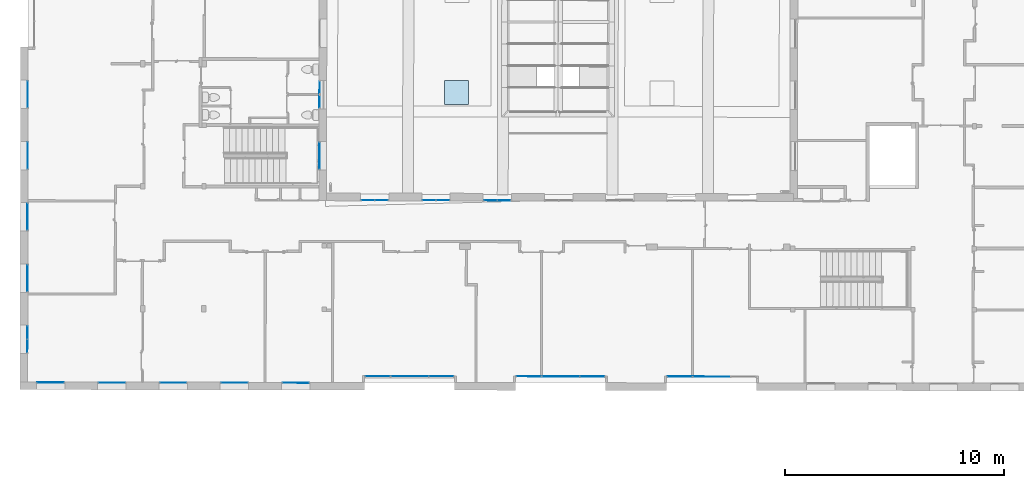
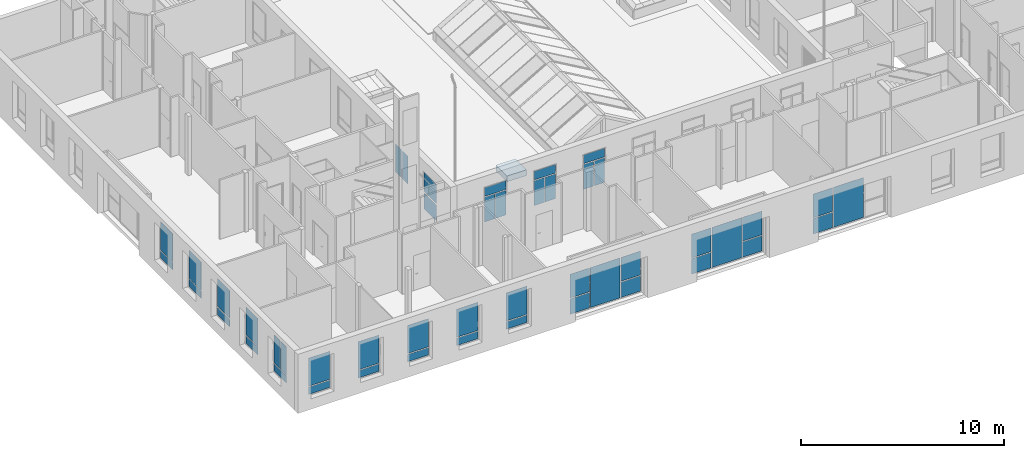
# One storey, part 34 of 101: 47 plates, 1 slab, 20 elements without a shape of their own.
"""IFC2X3 building model written with IfcOpenShell, lengths in metres."""

from ifc_helpers import new_model, entity, si_unit, converted_unit, derived_unit, direction, frame, frame_2d, origin, place, context, subcontext, project, spatial, rectangle, extrude, source, transform, mapped, material, layer, layer_set, type_object, type_shapes, element, aggregate, save


model = new_model("IFC2X3")

# Units and contexts
model_context = context("Model", 3, precision=1e-05, world=origin(), true_north=direction((6.123233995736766e-17, 1.0)))
body_context = subcontext(model_context, "Body", "Model", "MODEL_VIEW")
ifc_project = project(units=[si_unit("LENGTHUNIT", "METRE"), si_unit("AREAUNIT", "SQUARE_METRE"), converted_unit("PLANEANGLEUNIT", "DEGREE", entity("IfcPlaneAngleMeasure", 0.017453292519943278), si_unit("PLANEANGLEUNIT", "RADIAN"), dimensions=[0, 0, 0, 0, 0, 0, 0]), derived_unit("THERMALTRANSMITTANCEUNIT", [(si_unit("MASSUNIT", "GRAM", prefix="KILO"), 1), (si_unit("THERMODYNAMICTEMPERATUREUNIT", "KELVIN"), -1), (si_unit("TIMEUNIT", "SECOND"), -3)])], contexts=[model_context])

# Site, building, storey
site_placement = place(None, frame((1253.6752467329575, 2072.143113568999, 91.49999999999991), z_axis=(0.0, 0.0, 1.0), x_axis=(0.7237211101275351, 0.6900925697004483, 0.0)))
site = spatial("IfcSite", under=ifc_project, at=site_placement, Name="Surface", CompositionType="ELEMENT")
building_placement = place(site_placement, origin())
building = spatial("IfcBuilding", under=site, at=building_placement, CompositionType="ELEMENT")
storey_placement = place(building_placement, origin())
storey = spatial("IfcBuildingStorey", under=building, at=storey_placement, Name="0- Rdc", CompositionType="ELEMENT", Elevation=-5.764692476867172e-13)

# Curtain wall, plate
curtain_wall_type_1 = type_object("IfcCurtainWallType", Name="Mur-rideau:Menuiserie Ext 1F+1OB VERTIC", PredefinedType="NOTDEFINED")
curtain_wall_1_placement = place(storey_placement, origin())
curtain_wall_1 = element("IfcCurtainWall", 1, at=curtain_wall_1_placement, inside=storey, type_object=curtain_wall_type_1, Name="Mur-rideau:Menuiserie Ext 1F+1OB VERTIC", ObjectType="Mur-rideau:Menuiserie Ext 1F+1OB VERTIC")
ifc_material_1 = material(Name="Verre")
ifc_layer_1 = layer(ifc_material_1, 0.01)
ifc_layer_set_1 = layer_set([ifc_layer_1], Name="Panneau système:Vitré")
plate_type_1 = type_object("IfcPlateType", Name="Panneau système:Vitré", PredefinedType="CURTAIN_PANEL", material=ifc_layer_set_1)
shared_shape_1 = source(origin(), body_context, "Body", "SweptSolid", [
    extrude(rectangle(XDim=0.01, YDim=1.199695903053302, at=frame_2d((0.0, -4.163336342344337e-15), x_axis=(1.0, 0.0))), frame((0.0, 0.0, 0.0), z_axis=(0.0, 0.0, 1.0), x_axis=(0.0, 1.0, 0.0)), (0.0, 0.0, 1.0), 0.44499999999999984),
])
type_shapes(plate_type_1, [shared_shape_1])
plate_1_placement = place(curtain_wall_1_placement, frame((153.07029230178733, -4.2050887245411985, 0.6699999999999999), z_axis=(0.0, 0.0, 1.0), x_axis=(-0.7228702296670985, 0.6909838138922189, 0.0)))
plate_1 = element("IfcPlate", 2, at=plate_1_placement, type_object=plate_type_1, material=ifc_material_1, Name="Panneau système:Vitré", ObjectType="Panneau système:Vitré", context=body_context, shape_type="MappedRepresentation", body=[
    mapped(shared_shape_1, transform((0.0, 0.0, 0.0), scale=1.0)),
])

curtain_wall_2_placement = place(storey_placement, origin())
curtain_wall_2 = element("IfcCurtainWall", 3, at=curtain_wall_2_placement, inside=storey, type_object=curtain_wall_type_1, Name="Mur-rideau:Menuiserie Ext 1F+1OB VERTIC", ObjectType="Mur-rideau:Menuiserie Ext 1F+1OB VERTIC")
plate_2_placement = place(curtain_wall_2_placement, frame((151.04625565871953, -2.2703340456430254, 0.6699999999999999), z_axis=(0.0, 0.0, 1.0), x_axis=(-0.7228702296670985, 0.6909838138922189, 0.0)))
plate_2 = element("IfcPlate", 4, at=plate_2_placement, type_object=plate_type_1, material=ifc_material_1, Name="Panneau système:Vitré", ObjectType="Panneau système:Vitré", context=body_context, shape_type="MappedRepresentation", body=[
    mapped(shared_shape_1, transform((0.0, 0.0, 0.0), scale=1.0)),
])

curtain_wall_3_placement = place(storey_placement, origin())
curtain_wall_3 = element("IfcCurtainWall", 5, at=curtain_wall_3_placement, inside=storey, type_object=curtain_wall_type_1, Name="Mur-rideau:Menuiserie Ext 1F+1OB VERTIC", ObjectType="Mur-rideau:Menuiserie Ext 1F+1OB VERTIC")
plate_3_placement = place(curtain_wall_3_placement, frame((149.02221901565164, -0.33557936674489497, 0.6699999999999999), z_axis=(0.0, 0.0, 1.0), x_axis=(-0.7228702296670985, 0.6909838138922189, 0.0)))
plate_3 = element("IfcPlate", 6, at=plate_3_placement, type_object=plate_type_1, material=ifc_material_1, Name="Panneau système:Vitré", ObjectType="Panneau système:Vitré", context=body_context, shape_type="MappedRepresentation", body=[
    mapped(shared_shape_1, transform((0.0, 0.0, 0.0), scale=1.0)),
])

curtain_wall_4_placement = place(storey_placement, origin())
curtain_wall_4 = element("IfcCurtainWall", 7, at=curtain_wall_4_placement, inside=storey, type_object=curtain_wall_type_1, Name="Mur-rideau:Menuiserie Ext 1F+1OB VERTIC", ObjectType="Mur-rideau:Menuiserie Ext 1F+1OB VERTIC")
plate_4_placement = place(curtain_wall_4_placement, frame((146.99787021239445, 1.5994737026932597, 0.6699999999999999), z_axis=(0.0, 0.0, 1.0), x_axis=(-0.7228702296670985, 0.6909838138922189, 0.0)))
plate_4 = element("IfcPlate", 8, at=plate_4_placement, type_object=plate_type_1, material=ifc_material_1, Name="Panneau système:Vitré", ObjectType="Panneau système:Vitré", context=body_context, shape_type="MappedRepresentation", body=[
    mapped(shared_shape_1, transform((0.0, 0.0, 0.0), scale=1.0)),
])

curtain_wall_5_placement = place(storey_placement, origin())
curtain_wall_5 = element("IfcCurtainWall", 9, at=curtain_wall_5_placement, inside=storey, type_object=curtain_wall_type_1, Name="Mur-rideau:Menuiserie Ext 1F+1OB VERTIC", ObjectType="Mur-rideau:Menuiserie Ext 1F+1OB VERTIC")
plate_5_placement = place(curtain_wall_5_placement, frame((144.97414572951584, 3.5339299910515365, 0.6699999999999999), z_axis=(0.0, 0.0, 1.0), x_axis=(-0.7228702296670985, 0.6909838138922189, 0.0)))
plate_5 = element("IfcPlate", 10, at=plate_5_placement, type_object=plate_type_1, material=ifc_material_1, Name="Panneau système:Vitré", ObjectType="Panneau système:Vitré", context=body_context, shape_type="MappedRepresentation", body=[
    mapped(shared_shape_1, transform((0.0, 0.0, 0.0), scale=1.0)),
])

curtain_wall_6_placement = place(storey_placement, origin())
curtain_wall_6 = element("IfcCurtainWall", 11, at=curtain_wall_6_placement, inside=storey, type_object=curtain_wall_type_1, Name="Mur-rideau:Menuiserie Ext 1F+1OB VERTIC", ObjectType="Mur-rideau:Menuiserie Ext 1F+1OB VERTIC")
plate_6_placement = place(curtain_wall_6_placement, frame((147.5023672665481, 7.717569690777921, 0.6699999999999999), z_axis=(0.0, 0.0, 1.0), x_axis=(0.6911544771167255, 0.7227070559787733, 0.0)))
plate_6 = element("IfcPlate", 12, at=plate_6_placement, type_object=plate_type_1, material=ifc_material_1, Name="Panneau système:Vitré", ObjectType="Panneau système:Vitré", context=body_context, shape_type="MappedRepresentation", body=[
    mapped(shared_shape_1, transform((0.0, 0.0, 0.0), scale=1.0)),
])

curtain_wall_7_placement = place(storey_placement, origin())
curtain_wall_7 = element("IfcCurtainWall", 13, at=curtain_wall_7_placement, inside=storey, type_object=curtain_wall_type_1, Name="Mur-rideau:Menuiserie Ext 1F+1OB VERTIC", ObjectType="Mur-rideau:Menuiserie Ext 1F+1OB VERTIC")
plate_7_placement = place(curtain_wall_7_placement, frame((149.43712194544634, 9.741606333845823, 0.6699999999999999), z_axis=(0.0, 0.0, 1.0), x_axis=(0.6911544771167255, 0.7227070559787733, 0.0)))
plate_7 = element("IfcPlate", 14, at=plate_7_placement, type_object=plate_type_1, material=ifc_material_1, Name="Panneau système:Vitré", ObjectType="Panneau système:Vitré", context=body_context, shape_type="MappedRepresentation", body=[
    mapped(shared_shape_1, transform((0.0, 0.0, 0.0), scale=1.0)),
])

curtain_wall_8_placement = place(storey_placement, origin())
curtain_wall_8 = element("IfcCurtainWall", 15, at=curtain_wall_8_placement, inside=storey, type_object=curtain_wall_type_1, Name="Mur-rideau:Menuiserie Ext 1F+1OB VERTIC", ObjectType="Mur-rideau:Menuiserie Ext 1F+1OB VERTIC")
plate_8_placement = place(curtain_wall_8_placement, frame((151.37187662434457, 11.765642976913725, 0.6699999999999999), z_axis=(0.0, 0.0, 1.0), x_axis=(0.6911544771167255, 0.7227070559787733, 0.0)))
plate_8 = element("IfcPlate", 16, at=plate_8_placement, type_object=plate_type_1, material=ifc_material_1, Name="Panneau système:Vitré", ObjectType="Panneau système:Vitré", context=body_context, shape_type="MappedRepresentation", body=[
    mapped(shared_shape_1, transform((0.0, 0.0, 0.0), scale=1.0)),
])

curtain_wall_9_placement = place(storey_placement, origin())
curtain_wall_9 = element("IfcCurtainWall", 17, at=curtain_wall_9_placement, inside=storey, type_object=curtain_wall_type_1, Name="Mur-rideau:Menuiserie Ext 1F+1OB VERTIC", ObjectType="Mur-rideau:Menuiserie Ext 1F+1OB VERTIC")
plate_9_placement = place(curtain_wall_9_placement, frame((153.3066313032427, 13.789679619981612, 0.6699999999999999), z_axis=(0.0, 0.0, 1.0), x_axis=(0.6911544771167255, 0.7227070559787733, 0.0)))
plate_9 = element("IfcPlate", 18, at=plate_9_placement, type_object=plate_type_1, material=ifc_material_1, Name="Panneau système:Vitré", ObjectType="Panneau système:Vitré", context=body_context, shape_type="MappedRepresentation", body=[
    mapped(shared_shape_1, transform((0.0, 0.0, 0.0), scale=1.0)),
])

# Plate
plate_type_2 = type_object("IfcPlateType", Name="Panneau système:Vitré", PredefinedType="CURTAIN_PANEL", material=ifc_layer_set_1)
shared_shape_2 = source(origin(), body_context, "Body", "SweptSolid", [
    extrude(rectangle(XDim=0.01, YDim=1.199695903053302, at=frame_2d((0.0, -4.163336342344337e-15), x_axis=(1.0, 0.0))), frame((0.0, 0.0, 0.0), z_axis=(0.0, 0.0, 1.0), x_axis=(0.0, 1.0, 0.0)), (0.0, 0.0, 1.0), 1.6849999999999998),
])
type_shapes(plate_type_2, [shared_shape_2])
plate_10_placement = place(curtain_wall_1_placement, frame((153.07029230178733, -4.2050887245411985, 1.1649999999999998), z_axis=(0.0, 0.0, 1.0), x_axis=(-0.7228702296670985, 0.6909838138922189, 0.0)))
plate_10 = element("IfcPlate", 19, at=plate_10_placement, type_object=plate_type_2, material=ifc_material_1, Name="Panneau système:Vitré", ObjectType="Panneau système:Vitré", context=body_context, shape_type="MappedRepresentation", body=[
    mapped(shared_shape_2, transform((0.0, 0.0, 0.0), scale=1.0)),
])

aggregate(curtain_wall_1, [plate_1, plate_10])

plate_11_placement = place(curtain_wall_2_placement, frame((151.04625565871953, -2.2703340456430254, 1.1649999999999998), z_axis=(0.0, 0.0, 1.0), x_axis=(-0.7228702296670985, 0.6909838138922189, 0.0)))
plate_11 = element("IfcPlate", 20, at=plate_11_placement, type_object=plate_type_2, material=ifc_material_1, Name="Panneau système:Vitré", ObjectType="Panneau système:Vitré", context=body_context, shape_type="MappedRepresentation", body=[
    mapped(shared_shape_2, transform((0.0, 0.0, 0.0), scale=1.0)),
])

aggregate(curtain_wall_2, [plate_2, plate_11])

plate_12_placement = place(curtain_wall_3_placement, frame((149.02221901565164, -0.33557936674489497, 1.1649999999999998), z_axis=(0.0, 0.0, 1.0), x_axis=(-0.7228702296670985, 0.6909838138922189, 0.0)))
plate_12 = element("IfcPlate", 21, at=plate_12_placement, type_object=plate_type_2, material=ifc_material_1, Name="Panneau système:Vitré", ObjectType="Panneau système:Vitré", context=body_context, shape_type="MappedRepresentation", body=[
    mapped(shared_shape_2, transform((0.0, 0.0, 0.0), scale=1.0)),
])

aggregate(curtain_wall_3, [plate_3, plate_12])

plate_13_placement = place(curtain_wall_4_placement, frame((146.99787021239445, 1.5994737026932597, 1.1649999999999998), z_axis=(0.0, 0.0, 1.0), x_axis=(-0.7228702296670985, 0.6909838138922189, 0.0)))
plate_13 = element("IfcPlate", 22, at=plate_13_placement, type_object=plate_type_2, material=ifc_material_1, Name="Panneau système:Vitré", ObjectType="Panneau système:Vitré", context=body_context, shape_type="MappedRepresentation", body=[
    mapped(shared_shape_2, transform((0.0, 0.0, 0.0), scale=1.0)),
])

aggregate(curtain_wall_4, [plate_4, plate_13])

plate_14_placement = place(curtain_wall_5_placement, frame((144.97414572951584, 3.5339299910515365, 1.1649999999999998), z_axis=(0.0, 0.0, 1.0), x_axis=(-0.7228702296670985, 0.6909838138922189, 0.0)))
plate_14 = element("IfcPlate", 23, at=plate_14_placement, type_object=plate_type_2, material=ifc_material_1, Name="Panneau système:Vitré", ObjectType="Panneau système:Vitré", context=body_context, shape_type="MappedRepresentation", body=[
    mapped(shared_shape_2, transform((0.0, 0.0, 0.0), scale=1.0)),
])

aggregate(curtain_wall_5, [plate_5, plate_14])

plate_15_placement = place(curtain_wall_6_placement, frame((147.5023672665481, 7.717569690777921, 1.1649999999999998), z_axis=(0.0, 0.0, 1.0), x_axis=(0.6911544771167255, 0.7227070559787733, 0.0)))
plate_15 = element("IfcPlate", 24, at=plate_15_placement, type_object=plate_type_2, material=ifc_material_1, Name="Panneau système:Vitré", ObjectType="Panneau système:Vitré", context=body_context, shape_type="MappedRepresentation", body=[
    mapped(shared_shape_2, transform((0.0, 0.0, 0.0), scale=1.0)),
])

aggregate(curtain_wall_6, [plate_6, plate_15])

plate_16_placement = place(curtain_wall_7_placement, frame((149.43712194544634, 9.741606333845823, 1.1649999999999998), z_axis=(0.0, 0.0, 1.0), x_axis=(0.6911544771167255, 0.7227070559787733, 0.0)))
plate_16 = element("IfcPlate", 25, at=plate_16_placement, type_object=plate_type_2, material=ifc_material_1, Name="Panneau système:Vitré", ObjectType="Panneau système:Vitré", context=body_context, shape_type="MappedRepresentation", body=[
    mapped(shared_shape_2, transform((0.0, 0.0, 0.0), scale=1.0)),
])

aggregate(curtain_wall_7, [plate_7, plate_16])

plate_17_placement = place(curtain_wall_8_placement, frame((151.37187662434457, 11.765642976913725, 1.1649999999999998), z_axis=(0.0, 0.0, 1.0), x_axis=(0.6911544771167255, 0.7227070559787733, 0.0)))
plate_17 = element("IfcPlate", 26, at=plate_17_placement, type_object=plate_type_2, material=ifc_material_1, Name="Panneau système:Vitré", ObjectType="Panneau système:Vitré", context=body_context, shape_type="MappedRepresentation", body=[
    mapped(shared_shape_2, transform((0.0, 0.0, 0.0), scale=1.0)),
])

aggregate(curtain_wall_8, [plate_8, plate_17])

plate_18_placement = place(curtain_wall_9_placement, frame((153.3066313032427, 13.789679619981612, 1.1649999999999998), z_axis=(0.0, 0.0, 1.0), x_axis=(0.6911544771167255, 0.7227070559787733, 0.0)))
plate_18 = element("IfcPlate", 27, at=plate_18_placement, type_object=plate_type_2, material=ifc_material_1, Name="Panneau système:Vitré", ObjectType="Panneau système:Vitré", context=body_context, shape_type="MappedRepresentation", body=[
    mapped(shared_shape_2, transform((0.0, 0.0, 0.0), scale=1.0)),
])

aggregate(curtain_wall_9, [plate_9, plate_18])

# Curtain wall, plates
curtain_wall_10_placement = place(storey_placement, origin())
curtain_wall_10 = element("IfcCurtainWall", 28, at=curtain_wall_10_placement, inside=storey, type_object=curtain_wall_type_1, Name="Mur-rideau:Menuiserie Ext 1F+1OB VERTIC", ObjectType="Mur-rideau:Menuiserie Ext 1F+1OB VERTIC")
plate_type_3 = type_object("IfcPlateType", Name="Panneau système:Vitré", PredefinedType="CURTAIN_PANEL", material=ifc_layer_set_1)
shared_shape_3 = source(origin(), body_context, "Body", "SweptSolid", [
    extrude(rectangle(XDim=0.44499999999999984, YDim=1.1996959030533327, at=frame_2d((0.0, -5.773159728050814e-15), x_axis=(1.0, 0.0))), frame((0.0, -0.005000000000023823, 0.22249999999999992), z_axis=(0.0, 1.0, 0.0), x_axis=(0.0, 0.0, 1.0)), (0.0, 0.0, 1.0), 0.01),
])
type_shapes(plate_type_3, [shared_shape_3])
plate_19_placement = place(curtain_wall_10_placement, frame((145.57106750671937, 5.697147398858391, 0.6699999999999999), z_axis=(0.0, 0.0, 1.0), x_axis=(0.6911544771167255, 0.7227070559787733, 0.0)))
plate_19 = element("IfcPlate", 29, at=plate_19_placement, type_object=plate_type_3, material=ifc_material_1, Name="Panneau système:Vitré", ObjectType="Panneau système:Vitré", context=body_context, shape_type="MappedRepresentation", body=[
    mapped(shared_shape_3, transform((0.0, 0.0, 0.0), scale=1.0)),
])
plate_type_4 = type_object("IfcPlateType", Name="Panneau système:Vitré", PredefinedType="CURTAIN_PANEL", material=ifc_layer_set_1)
shared_shape_4 = source(origin(), body_context, "Body", "SweptSolid", [
    extrude(rectangle(XDim=0.01, YDim=0.5748479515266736, at=frame_2d((0.0, 8.326672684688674e-16), x_axis=(1.0, 0.0))), frame((0.0, 0.0, 0.0), z_axis=(0.0, 0.0, 1.0), x_axis=(0.0, 1.0, 0.0)), (0.0, 0.0, 1.0), 1.6850000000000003),
])
type_shapes(plate_type_4, [shared_shape_4])
plate_20_placement = place(curtain_wall_10_placement, frame((145.35513427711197, 5.471356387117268, 1.1649999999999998), z_axis=(0.0, 0.0, 1.0), x_axis=(0.6911544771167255, 0.7227070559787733, 0.0)))
plate_20 = element("IfcPlate", 30, at=plate_20_placement, type_object=plate_type_4, material=ifc_material_1, Name="Panneau système:Vitré", ObjectType="Panneau système:Vitré", context=body_context, shape_type="MappedRepresentation", body=[
    mapped(shared_shape_4, transform((0.0, 0.0, 0.0), scale=1.0)),
])
plate_21_placement = place(curtain_wall_10_placement, frame((145.7870007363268, 5.922938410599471, 1.1649999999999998), z_axis=(0.0, 0.0, 1.0), x_axis=(0.6911544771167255, 0.7227070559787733, 0.0)))
plate_21 = element("IfcPlate", 31, at=plate_21_placement, type_object=plate_type_4, material=ifc_material_1, Name="Panneau système:Vitré", ObjectType="Panneau système:Vitré", context=body_context, shape_type="MappedRepresentation", body=[
    mapped(shared_shape_4, transform((0.0, 0.0, 0.0), scale=1.0)),
])
aggregate(curtain_wall_10, [plate_19, plate_20, plate_21])

# Curtain wall, plate
curtain_wall_11_placement = place(storey_placement, origin())
curtain_wall_11 = element("IfcCurtainWall", 32, at=curtain_wall_11_placement, inside=storey, type_object=curtain_wall_type_1, Name="Mur-rideau:Menuiserie Ext 1F+1OB VERTIC", ObjectType="Mur-rideau:Menuiserie Ext 1F+1OB VERTIC")
ifc_material_2 = material(Name="OMD-Verre opal")
ifc_layer_2 = layer(ifc_material_1, 0.01)
ifc_layer_set_2 = layer_set([ifc_layer_2], Name="Panneau système:Vitré opal")
plate_type_5 = type_object("IfcPlateType", Name="Panneau système:Vitré opal", PredefinedType="CURTAIN_PANEL", material=ifc_layer_set_2)
shared_shape_5 = source(origin(), body_context, "Body", "SweptSolid", [
    extrude(rectangle(XDim=0.01, YDim=0.5496959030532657, at=frame_2d((0.0, 3.608224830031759e-16), x_axis=(1.0, 0.0))), frame((0.0, 0.0, 0.0), z_axis=(0.0, 0.0, 1.0), x_axis=(0.0, 1.0, 0.0)), (0.0, 0.0, 1.0), 1.6849999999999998),
])
type_shapes(plate_type_5, [shared_shape_5])
plate_22_placement = place(curtain_wall_11_placement, frame((162.72651495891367, 4.341201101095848, 1.1649999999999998), z_axis=(0.0, 0.0, 1.0), x_axis=(0.6909838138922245, 0.722870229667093, 0.0)))
plate_22 = element("IfcPlate", 33, at=plate_22_placement, type_object=plate_type_5, material=ifc_material_2, Name="Panneau système:Vitré opal", ObjectType="Panneau système:Vitré opal", context=body_context, shape_type="MappedRepresentation", body=[
    mapped(shared_shape_5, transform((0.0, 0.0, 0.0), scale=1.0)),
])
aggregate(curtain_wall_11, [plate_22])

# Curtain wall, plates
curtain_wall_12_placement = place(storey_placement, origin())
curtain_wall_12 = element("IfcCurtainWall", 34, at=curtain_wall_12_placement, inside=storey, type_object=curtain_wall_type_1, Name="Mur-rideau:Menuiserie Ext 1F+1OB VERTIC", ObjectType="Mur-rideau:Menuiserie Ext 1F+1OB VERTIC")
plate_type_6 = type_object("IfcPlateType", Name="Panneau système:Vitré", PredefinedType="CURTAIN_PANEL", material=ifc_layer_set_1)
shared_shape_6 = source(origin(), body_context, "Body", "SweptSolid", [
    extrude(rectangle(XDim=0.01, YDim=1.1996959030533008, at=frame_2d((0.0, 2.4424906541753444e-15), x_axis=(1.0, 0.0))), frame((0.0, 0.0, 0.0), z_axis=(0.0, 0.0, 1.0), x_axis=(0.0, 1.0, 0.0)), (0.0, 0.0, 1.0), 0.9399999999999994),
])
type_shapes(plate_type_6, [shared_shape_6])
plate_23_placement = place(curtain_wall_12_placement, frame((161.0163300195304, 2.552097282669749, 0.6699999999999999), z_axis=(0.0, 0.0, 1.0), x_axis=(0.6909838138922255, 0.722870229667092, 0.0)))
plate_23 = element("IfcPlate", 35, at=plate_23_placement, type_object=plate_type_6, material=ifc_material_1, Name="Panneau système:Vitré", ObjectType="Panneau système:Vitré", context=body_context, shape_type="MappedRepresentation", body=[
    mapped(shared_shape_6, transform((0.0, 0.0, 0.0), scale=1.0)),
])
plate_type_7 = type_object("IfcPlateType", Name="Panneau système:Vitré", PredefinedType="CURTAIN_PANEL", material=ifc_layer_set_1)
shared_shape_7 = source(origin(), body_context, "Body", "SweptSolid", [
    extrude(rectangle(XDim=0.01, YDim=1.1996959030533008, at=frame_2d((0.0, 2.4424906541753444e-15), x_axis=(1.0, 0.0))), frame((0.0, 0.0, 0.0), z_axis=(0.0, 0.0, 1.0), x_axis=(0.0, 1.0, 0.0)), (0.0, 0.0, 1.0), 1.1400000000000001),
])
type_shapes(plate_type_7, [shared_shape_7])
plate_24_placement = place(curtain_wall_12_placement, frame((161.0163300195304, 2.552097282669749, 1.7099999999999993), z_axis=(0.0, 0.0, 1.0), x_axis=(0.6909838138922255, 0.722870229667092, 0.0)))
plate_24 = element("IfcPlate", 36, at=plate_24_placement, type_object=plate_type_7, material=ifc_material_1, Name="Panneau système:Vitré", ObjectType="Panneau système:Vitré", context=body_context, shape_type="MappedRepresentation", body=[
    mapped(shared_shape_7, transform((0.0, 0.0, 0.0), scale=1.0)),
])
aggregate(curtain_wall_12, [plate_23, plate_24])

curtain_wall_type_2 = type_object("IfcCurtainWallType", Name="Mur-rideau:Menuiserie Ext 2OF+1F VERTIC", PredefinedType="NOTDEFINED")
curtain_wall_13_placement = place(storey_placement, origin())
curtain_wall_13 = element("IfcCurtainWall", 37, at=curtain_wall_13_placement, inside=storey, type_object=curtain_wall_type_2, Name="Mur-rideau:Menuiserie Ext 2OF+1F VERTIC", ObjectType="Mur-rideau:Menuiserie Ext 2OF+1F VERTIC")
plate_type_8 = type_object("IfcPlateType", Name="Panneau système:Vitré", PredefinedType="CURTAIN_PANEL", material=ifc_layer_set_1)
shared_shape_8 = source(origin(), body_context, "Body", "SweptSolid", [
    extrude(rectangle(XDim=0.01, YDim=0.5748479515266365, at=frame_2d((0.0, 1.4988010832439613e-15), x_axis=(1.0, 0.0))), frame((0.0, 0.0, 0.0), z_axis=(0.0, 0.0, 1.0), x_axis=(0.0, 1.0, 0.0)), (0.0, 0.0, 1.0), 1.4833333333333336),
])
type_shapes(plate_type_8, [shared_shape_8])
plate_25_placement = place(curtain_wall_13_placement, frame((161.66565428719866, -0.8701277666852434, 0.7916666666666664), z_axis=(0.0, 0.0, 1.0), x_axis=(-0.7228702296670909, 0.6909838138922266, 0.0)))
plate_25 = element("IfcPlate", 38, at=plate_25_placement, type_object=plate_type_8, material=ifc_material_1, Name="Panneau système:Vitré", ObjectType="Panneau système:Vitré", context=body_context, shape_type="MappedRepresentation", body=[
    mapped(shared_shape_8, transform((0.0, 0.0, 0.0), scale=1.0)),
])
plate_26_placement = place(curtain_wall_13_placement, frame((161.21397030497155, -0.438367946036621, 0.7916666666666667), z_axis=(0.0, 0.0, 1.0), x_axis=(-0.7228702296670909, 0.6909838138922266, 0.0)))
plate_26 = element("IfcPlate", 39, at=plate_26_placement, type_object=plate_type_8, material=ifc_material_1, Name="Panneau système:Vitré", ObjectType="Panneau système:Vitré", context=body_context, shape_type="MappedRepresentation", body=[
    mapped(shared_shape_8, transform((0.0, 0.0, 0.0), scale=1.0)),
])

curtain_wall_14_placement = place(storey_placement, origin())
curtain_wall_14 = element("IfcCurtainWall", 40, at=curtain_wall_14_placement, inside=storey, type_object=curtain_wall_type_2, Name="Mur-rideau:Menuiserie Ext 2OF+1F VERTIC", ObjectType="Mur-rideau:Menuiserie Ext 2OF+1F VERTIC")
plate_27_placement = place(curtain_wall_14_placement, frame((163.6922186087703, -2.807298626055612, 0.7916666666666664), z_axis=(0.0, 0.0, 1.0), x_axis=(-0.7228702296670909, 0.6909838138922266, 0.0)))
plate_27 = element("IfcPlate", 41, at=plate_27_placement, type_object=plate_type_8, material=ifc_material_1, Name="Panneau système:Vitré", ObjectType="Panneau système:Vitré", context=body_context, shape_type="MappedRepresentation", body=[
    mapped(shared_shape_8, transform((0.0, 0.0, 0.0), scale=1.0)),
])
plate_28_placement = place(curtain_wall_14_placement, frame((163.2405346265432, -2.3755388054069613, 0.7916666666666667), z_axis=(0.0, 0.0, 1.0), x_axis=(-0.7228702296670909, 0.6909838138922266, 0.0)))
plate_28 = element("IfcPlate", 42, at=plate_28_placement, type_object=plate_type_8, material=ifc_material_1, Name="Panneau système:Vitré", ObjectType="Panneau système:Vitré", context=body_context, shape_type="MappedRepresentation", body=[
    mapped(shared_shape_8, transform((0.0, 0.0, 0.0), scale=1.0)),
])

curtain_wall_15_placement = place(storey_placement, origin())
curtain_wall_15 = element("IfcCurtainWall", 43, at=curtain_wall_15_placement, inside=storey, type_object=curtain_wall_type_2, Name="Mur-rideau:Menuiserie Ext 2OF+1F VERTIC", ObjectType="Mur-rideau:Menuiserie Ext 2OF+1F VERTIC")
plate_29_placement = place(curtain_wall_15_placement, frame((165.7162552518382, -4.742053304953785, 0.7916666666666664), z_axis=(0.0, 0.0, 1.0), x_axis=(-0.7228702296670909, 0.6909838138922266, 0.0)))
plate_29 = element("IfcPlate", 44, at=plate_29_placement, type_object=plate_type_8, material=ifc_material_1, Name="Panneau système:Vitré", ObjectType="Panneau système:Vitré", context=body_context, shape_type="MappedRepresentation", body=[
    mapped(shared_shape_8, transform((0.0, 0.0, 0.0), scale=1.0)),
])
plate_30_placement = place(curtain_wall_15_placement, frame((165.26457126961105, -4.310293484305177, 0.7916666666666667), z_axis=(0.0, 0.0, 1.0), x_axis=(-0.7228702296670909, 0.6909838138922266, 0.0)))
plate_30 = element("IfcPlate", 45, at=plate_30_placement, type_object=plate_type_8, material=ifc_material_1, Name="Panneau système:Vitré", ObjectType="Panneau système:Vitré", context=body_context, shape_type="MappedRepresentation", body=[
    mapped(shared_shape_8, transform((0.0, 0.0, 0.0), scale=1.0)),
])

# Plate
plate_type_9 = type_object("IfcPlateType", Name="Panneau système:Vitré", PredefinedType="CURTAIN_PANEL", material=ifc_layer_set_1)
shared_shape_9 = source(origin(), body_context, "Body", "SweptSolid", [
    extrude(rectangle(XDim=0.5249999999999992, YDim=1.1996959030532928, at=frame_2d((-2.7755575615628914e-17, 5.551115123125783e-17), x_axis=(1.0, 0.0))), frame((0.0, -0.005000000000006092, 0.2624999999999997), z_axis=(0.0, 1.0, 0.0), x_axis=(0.0, 0.0, 1.0)), (0.0, 0.0, 1.0), 0.01),
])
type_shapes(plate_type_9, [shared_shape_9])
plate_31_placement = place(curtain_wall_13_placement, frame((161.4398122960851, -0.6542478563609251, 2.325), z_axis=(0.0, 0.0, 1.0), x_axis=(-0.7228702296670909, 0.6909838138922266, 0.0)))
plate_31 = element("IfcPlate", 46, at=plate_31_placement, type_object=plate_type_9, material=ifc_material_1, Name="Panneau système:Vitré", ObjectType="Panneau système:Vitré", context=body_context, shape_type="MappedRepresentation", body=[
    mapped(shared_shape_9, transform((0.0, 0.0, 0.0), scale=1.0)),
])

aggregate(curtain_wall_13, [plate_25, plate_26, plate_31])

plate_32_placement = place(curtain_wall_14_placement, frame((163.46637661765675, -2.5914187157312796, 2.325), z_axis=(0.0, 0.0, 1.0), x_axis=(-0.7228702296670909, 0.6909838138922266, 0.0)))
plate_32 = element("IfcPlate", 47, at=plate_32_placement, type_object=plate_type_9, material=ifc_material_1, Name="Panneau système:Vitré", ObjectType="Panneau système:Vitré", context=body_context, shape_type="MappedRepresentation", body=[
    mapped(shared_shape_9, transform((0.0, 0.0, 0.0), scale=1.0)),
])

aggregate(curtain_wall_14, [plate_27, plate_28, plate_32])

plate_33_placement = place(curtain_wall_15_placement, frame((165.49041326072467, -4.526173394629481, 2.325), z_axis=(0.0, 0.0, 1.0), x_axis=(-0.7228702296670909, 0.6909838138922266, 0.0)))
plate_33 = element("IfcPlate", 48, at=plate_33_placement, type_object=plate_type_9, material=ifc_material_1, Name="Panneau système:Vitré", ObjectType="Panneau système:Vitré", context=body_context, shape_type="MappedRepresentation", body=[
    mapped(shared_shape_9, transform((0.0, 0.0, 0.0), scale=1.0)),
])

aggregate(curtain_wall_15, [plate_29, plate_30, plate_33])

# Curtain wall, plate
curtain_wall_16_placement = place(storey_placement, origin())
curtain_wall_16 = element("IfcCurtainWall", 49, at=curtain_wall_16_placement, inside=storey, type_object=curtain_wall_type_1, Name="Mur-rideau:Menuiserie Ext 1F+1OB VERTIC", ObjectType="Mur-rideau:Menuiserie Ext 1F+1OB VERTIC")
plate_type_10 = type_object("IfcPlateType", Name="Panneau système:Vitré", PredefinedType="CURTAIN_PANEL", material=ifc_layer_set_1)
shared_shape_10 = source(origin(), body_context, "Body", "SweptSolid", [
    extrude(rectangle(XDim=0.01, YDim=1.099999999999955, at=frame_2d((0.0, 1.7208456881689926e-15), x_axis=(1.0, 0.0))), frame((0.0, 0.0, 0.0), z_axis=(0.0, 0.0, 1.0), x_axis=(0.0, 1.0, 0.0)), (0.0, 0.0, 1.0), 0.9249999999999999),
])
type_shapes(plate_type_10, [shared_shape_10])
plate_34_placement = place(curtain_wall_16_placement, frame((158.0914744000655, -8.57593625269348, 0.05), z_axis=(0.0, 0.0, 1.0), x_axis=(-0.7228702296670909, 0.6909838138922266, 0.0)))
plate_34 = element("IfcPlate", 50, at=plate_34_placement, type_object=plate_type_10, material=ifc_material_1, Name="Panneau système:Vitré", ObjectType="Panneau système:Vitré", context=body_context, shape_type="MappedRepresentation", body=[
    mapped(shared_shape_10, transform((0.0, 0.0, 0.0), scale=1.0)),
])

curtain_wall_17_placement = place(storey_placement, origin())
curtain_wall_17 = element("IfcCurtainWall", 51, at=curtain_wall_17_placement, inside=storey, type_object=curtain_wall_type_1, Name="Mur-rideau:Menuiserie Ext 1F+1OB VERTIC", ObjectType="Mur-rideau:Menuiserie Ext 1F+1OB VERTIC")
plate_35_placement = place(curtain_wall_17_placement, frame((163.0792789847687, -13.343724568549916, 0.05), z_axis=(0.0, 0.0, 1.0), x_axis=(-0.7228702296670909, 0.6909838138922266, 0.0)))
plate_35 = element("IfcPlate", 52, at=plate_35_placement, type_object=plate_type_10, material=ifc_material_1, Name="Panneau système:Vitré", ObjectType="Panneau système:Vitré", context=body_context, shape_type="MappedRepresentation", body=[
    mapped(shared_shape_10, transform((0.0, 0.0, 0.0), scale=1.0)),
])

# Plate
plate_type_11 = type_object("IfcPlateType", Name="Panneau système:Vitré", PredefinedType="CURTAIN_PANEL", material=ifc_layer_set_1)
shared_shape_11 = source(origin(), body_context, "Body", "SweptSolid", [
    extrude(rectangle(XDim=2.3999999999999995, YDim=1.6950000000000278, at=frame_2d((0.08333333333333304, -5.551115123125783e-17), x_axis=(1.0, 0.0))), frame((0.0, -0.0049999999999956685, 1.1166666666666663), z_axis=(0.0, 1.0, 0.0), x_axis=(0.0, 0.0, 1.0)), (0.0, 0.0, 1.0), 0.01),
])
type_shapes(plate_type_11, [shared_shape_11])
plate_36_placement = place(curtain_wall_16_placement, frame((157.04511974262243, -7.575737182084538, 0.05), z_axis=(0.0, 0.0, 1.0), x_axis=(-0.7228702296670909, 0.6909838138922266, 0.0)))
plate_36 = element("IfcPlate", 53, at=plate_36_placement, type_object=plate_type_11, material=ifc_material_1, Name="Panneau système:Vitré", ObjectType="Panneau système:Vitré", context=body_context, shape_type="MappedRepresentation", body=[
    mapped(shared_shape_11, transform((0.0, 0.0, 0.0), scale=1.0)),
])

plate_37_placement = place(curtain_wall_17_placement, frame((162.0329243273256, -12.343525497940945, 0.05), z_axis=(0.0, 0.0, 1.0), x_axis=(-0.7228702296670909, 0.6909838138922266, 0.0)))
plate_37 = element("IfcPlate", 54, at=plate_37_placement, type_object=plate_type_11, material=ifc_material_1, Name="Panneau système:Vitré", ObjectType="Panneau système:Vitré", context=body_context, shape_type="MappedRepresentation", body=[
    mapped(shared_shape_11, transform((0.0, 0.0, 0.0), scale=1.0)),
])

# Curtain wall, plate
curtain_wall_18_placement = place(storey_placement, origin())
curtain_wall_18 = element("IfcCurtainWall", 55, at=curtain_wall_18_placement, inside=storey, type_object=curtain_wall_type_1, Name="Mur-rideau:Menuiserie Ext 1F+1OB VERTIC", ObjectType="Mur-rideau:Menuiserie Ext 1F+1OB VERTIC")
plate_38_placement = place(curtain_wall_18_placement, frame((167.02072891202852, -17.111313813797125, 0.05), z_axis=(0.0, 0.0, 1.0), x_axis=(-0.7228702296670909, 0.6909838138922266, 0.0)))
plate_38 = element("IfcPlate", 56, at=plate_38_placement, type_object=plate_type_11, material=ifc_material_1, Name="Panneau système:Vitré", ObjectType="Panneau système:Vitré", context=body_context, shape_type="MappedRepresentation", body=[
    mapped(shared_shape_11, transform((0.0, 0.0, 0.0), scale=1.0)),
])

# Plate
plate_type_12 = type_object("IfcPlateType", Name="Panneau système:Vitré", PredefinedType="CURTAIN_PANEL", material=ifc_layer_set_1)
shared_shape_12 = source(origin(), body_context, "Body", "SweptSolid", [
    extrude(rectangle(XDim=0.01, YDim=1.1049999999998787, at=frame_2d((0.0, 1.2212453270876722e-15), x_axis=(1.0, 0.0))), frame((0.0, 0.0, 0.0), z_axis=(0.0, 0.0, 1.0), x_axis=(0.0, 1.0, 0.0)), (0.0, 0.0, 1.0), 0.9249999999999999),
])
type_shapes(plate_type_12, [shared_shape_12])
plate_39_placement = place(curtain_wall_16_placement, frame((155.99695790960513, -6.573810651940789, 0.05), z_axis=(0.0, 0.0, 1.0), x_axis=(-0.7228702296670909, 0.6909838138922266, 0.0)))
plate_39 = element("IfcPlate", 57, at=plate_39_placement, type_object=plate_type_12, material=ifc_material_1, Name="Panneau système:Vitré", ObjectType="Panneau système:Vitré", context=body_context, shape_type="MappedRepresentation", body=[
    mapped(shared_shape_12, transform((0.0, 0.0, 0.0), scale=1.0)),
])

plate_40_placement = place(curtain_wall_17_placement, frame((160.98476249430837, -11.341598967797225, 0.05), z_axis=(0.0, 0.0, 1.0), x_axis=(-0.7228702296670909, 0.6909838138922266, 0.0)))
plate_40 = element("IfcPlate", 58, at=plate_40_placement, type_object=plate_type_12, material=ifc_material_1, Name="Panneau système:Vitré", ObjectType="Panneau système:Vitré", context=body_context, shape_type="MappedRepresentation", body=[
    mapped(shared_shape_12, transform((0.0, 0.0, 0.0), scale=1.0)),
])

plate_41_placement = place(curtain_wall_18_placement, frame((165.97256707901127, -16.109387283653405, 0.05), z_axis=(0.0, 0.0, 1.0), x_axis=(-0.7228702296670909, 0.6909838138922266, 0.0)))
plate_41 = element("IfcPlate", 59, at=plate_41_placement, type_object=plate_type_12, material=ifc_material_1, Name="Panneau système:Vitré", ObjectType="Panneau système:Vitré", context=body_context, shape_type="MappedRepresentation", body=[
    mapped(shared_shape_12, transform((0.0, 0.0, 0.0), scale=1.0)),
])

plate_type_13 = type_object("IfcPlateType", Name="Panneau système:Vitré", PredefinedType="CURTAIN_PANEL", material=ifc_layer_set_1)
shared_shape_13 = source(origin(), body_context, "Body", "SweptSolid", [
    extrude(rectangle(XDim=0.01, YDim=1.0999999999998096, at=frame_2d((0.0, 2.886579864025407e-15), x_axis=(1.0, 0.0))), frame((0.0, 0.0, 0.0), z_axis=(0.0, 0.0, 1.0), x_axis=(0.0, 1.0, 0.0)), (0.0, 0.0, 1.0), 1.4249999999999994),
])
type_shapes(plate_type_13, [shared_shape_13])
plate_42_placement = place(curtain_wall_16_placement, frame((158.0914744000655, -8.57593625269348, 1.025), z_axis=(0.0, 0.0, 1.0), x_axis=(-0.7228702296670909, 0.6909838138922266, 0.0)))
plate_42 = element("IfcPlate", 60, at=plate_42_placement, type_object=plate_type_13, material=ifc_material_1, Name="Panneau système:Vitré", ObjectType="Panneau système:Vitré", context=body_context, shape_type="MappedRepresentation", body=[
    mapped(shared_shape_13, transform((0.0, 0.0, 0.0), scale=1.0)),
])

plate_43_placement = place(curtain_wall_17_placement, frame((163.0792789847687, -13.343724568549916, 1.025), z_axis=(0.0, 0.0, 1.0), x_axis=(-0.7228702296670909, 0.6909838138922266, 0.0)))
plate_43 = element("IfcPlate", 61, at=plate_43_placement, type_object=plate_type_13, material=ifc_material_1, Name="Panneau système:Vitré", ObjectType="Panneau système:Vitré", context=body_context, shape_type="MappedRepresentation", body=[
    mapped(shared_shape_13, transform((0.0, 0.0, 0.0), scale=1.0)),
])

plate_type_14 = type_object("IfcPlateType", Name="Panneau système:Vitré", PredefinedType="CURTAIN_PANEL", material=ifc_layer_set_1)
shared_shape_14 = source(origin(), body_context, "Body", "SweptSolid", [
    extrude(rectangle(XDim=0.01, YDim=1.1050000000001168, at=frame_2d((0.0, 9.992007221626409e-16), x_axis=(1.0, 0.0))), frame((0.0, 0.0, 0.0), z_axis=(0.0, 0.0, 1.0), x_axis=(0.0, 1.0, 0.0)), (0.0, 0.0, 1.0), 1.4249999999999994),
])
type_shapes(plate_type_14, [shared_shape_14])
plate_44_placement = place(curtain_wall_16_placement, frame((155.99695790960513, -6.573810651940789, 1.025), z_axis=(0.0, 0.0, 1.0), x_axis=(-0.7228702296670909, 0.6909838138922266, 0.0)))
plate_44 = element("IfcPlate", 62, at=plate_44_placement, type_object=plate_type_14, material=ifc_material_1, Name="Panneau système:Vitré", ObjectType="Panneau système:Vitré", context=body_context, shape_type="MappedRepresentation", body=[
    mapped(shared_shape_14, transform((0.0, 0.0, 0.0), scale=1.0)),
])

aggregate(curtain_wall_16, [plate_34, plate_36, plate_39, plate_42, plate_44])

plate_45_placement = place(curtain_wall_17_placement, frame((160.98476249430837, -11.341598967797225, 1.025), z_axis=(0.0, 0.0, 1.0), x_axis=(-0.7228702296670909, 0.6909838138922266, 0.0)))
plate_45 = element("IfcPlate", 63, at=plate_45_placement, type_object=plate_type_14, material=ifc_material_1, Name="Panneau système:Vitré", ObjectType="Panneau système:Vitré", context=body_context, shape_type="MappedRepresentation", body=[
    mapped(shared_shape_14, transform((0.0, 0.0, 0.0), scale=1.0)),
])

aggregate(curtain_wall_17, [plate_35, plate_37, plate_40, plate_43, plate_45])

plate_46_placement = place(curtain_wall_18_placement, frame((165.97256707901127, -16.109387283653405, 1.025), z_axis=(0.0, 0.0, 1.0), x_axis=(-0.7228702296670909, 0.6909838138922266, 0.0)))
plate_46 = element("IfcPlate", 64, at=plate_46_placement, type_object=plate_type_14, material=ifc_material_1, Name="Panneau système:Vitré", ObjectType="Panneau système:Vitré", context=body_context, shape_type="MappedRepresentation", body=[
    mapped(shared_shape_14, transform((0.0, 0.0, 0.0), scale=1.0)),
])

aggregate(curtain_wall_18, [plate_38, plate_41, plate_46])

# Roof, slab
ifc_material_3 = material(Name="OMD tranche")
ifc_layer_3 = layer(ifc_material_3, 0.35)
ifc_layer_set_3 = layer_set([ifc_layer_3], Name="Toit de base:toit terrasse 35")
roof_placement = place(storey_placement, frame((166.7700167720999, -0.4562403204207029, -0.7988762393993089)))
roof = element("IfcRoof", 65, at=roof_placement, inside=storey, material=ifc_layer_set_3, Name="Toit de base:toit terrasse 35", ObjectType="Toit de base:toit terrasse 35", ShapeType="NOTDEFINED")
type_product = type_object("IfcTypeProduct", Name="Toit de base:toit terrasse 35")
slab_placement = place(roof_placement, origin())
slab = element("IfcSlab", 66, at=slab_placement, type_object=type_product, material=ifc_layer_set_3, Name="Toit de base:toit terrasse 35", ObjectType="Toit de base:toit terrasse 35", PredefinedType="ROOF", context=body_context, shape_type="SweptSolid", body=[
    extrude(rectangle(XDim=1.100000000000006, YDim=1.0999614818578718, at=frame_2d((0.0, -1.1098760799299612e-14), x_axis=(-0.7225099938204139, 0.6913604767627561))), frame((0.7776007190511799, 0.7775994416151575, 0.00489541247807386), z_axis=(0.006153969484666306, 0.006430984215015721, 0.9999603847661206), x_axis=(0.9999810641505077, -3.957683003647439e-05, -0.006153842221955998)), (-0.006153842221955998, -0.006431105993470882, 0.9999603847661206), 0.35001386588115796),
])
aggregate(roof, [slab])

# Curtain wall, plate
curtain_wall_19_placement = place(storey_placement, origin())
curtain_wall_19 = element("IfcCurtainWall", 67, at=curtain_wall_19_placement, inside=storey, type_object=curtain_wall_type_1, Name="Mur-rideau:Menuiserie Ext 1F+1OB VERTIC", ObjectType="Mur-rideau:Menuiserie Ext 1F+1OB VERTIC")
plate_type_15 = type_object("IfcPlateType", Name="Panneau système:Vitré opal", PredefinedType="CURTAIN_PANEL", material=ifc_layer_set_2)
shared_shape_15 = source(origin(), body_context, "Body", "SweptSolid", [
    extrude(rectangle(XDim=0.01, YDim=0.5500000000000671, at=frame_2d((0.0, 3.885780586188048e-15), x_axis=(1.0, 0.0))), frame((0.0, 0.0, 0.0), z_axis=(0.0, 0.0, 1.0), x_axis=(0.0, 1.0, 0.0)), (0.0, 0.0, 1.0), 1.6849999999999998),
])
type_shapes(plate_type_15, [shared_shape_15])
plate_47_placement = place(curtain_wall_19_placement, frame((163.17554937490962, 4.810956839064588, 1.1649999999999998), z_axis=(0.0, 0.0, 1.0), x_axis=(-0.6909838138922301, -0.7228702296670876, 0.0)))
plate_47 = element("IfcPlate", 68, at=plate_47_placement, type_object=plate_type_15, material=ifc_material_2, Name="Panneau système:Vitré opal", ObjectType="Panneau système:Vitré opal", context=body_context, shape_type="MappedRepresentation", body=[
    mapped(shared_shape_15, transform((0.0, 0.0, 0.0), scale=1.0)),
])
aggregate(curtain_wall_19, [plate_47])

save(model, "model.ifc")
